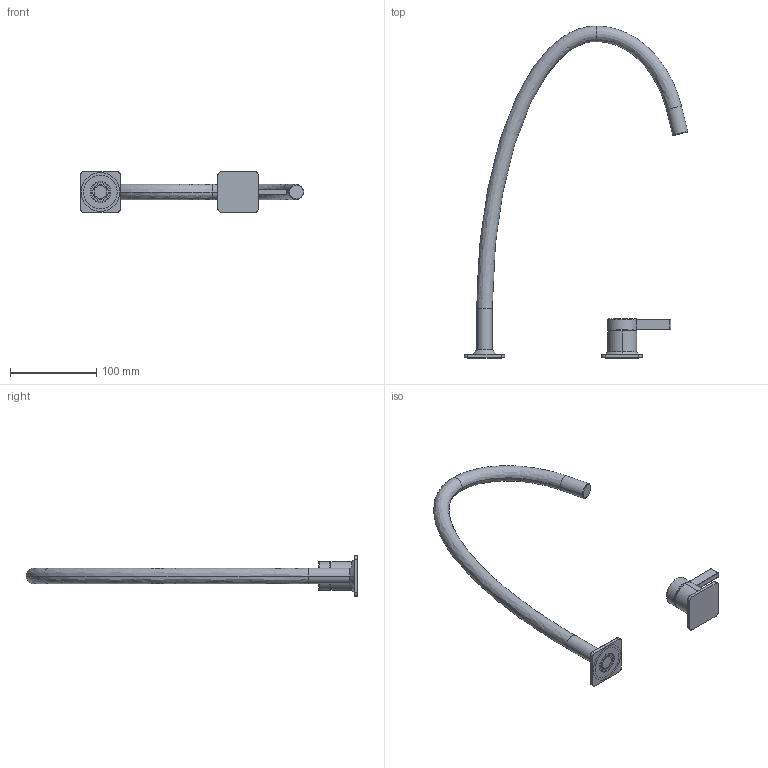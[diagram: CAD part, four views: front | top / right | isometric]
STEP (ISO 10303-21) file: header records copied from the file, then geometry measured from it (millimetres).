
FILE_DESCRIPTION((''),'2;1');
FILE_NAME('10392024','2017-06-28T',('DB991'),(''),'CREO PARAMETRIC BY PTC INC, 2016260','CREO PARAMETRIC BY PTC INC, 2016260','');
FILE_SCHEMA(('CONFIG_CONTROL_DESIGN'));
Length unit declared in the file: millimetre
Products named in the file (1): 10392024
Bounding box: 259.87 x 386 x 47 mm (x, y, z)
Volume: 208687.7 mm3; surface area: 49516.9 mm2
Topology: 2 solids, 2 shells, 116 faces, 258 edges, 158 vertices
Faces by surface type: cylinder 53, plane 32, torus 14, cone 11, bspline 6
Entity records: 4016 total; most frequent: CARTESIAN_POINT 1359, DIRECTION 591, ORIENTED_EDGE 516, EDGE_CURVE 258, AXIS2_PLACEMENT_3D 245, VERTEX_POINT 158, CIRCLE 135, EDGE_LOOP 128
